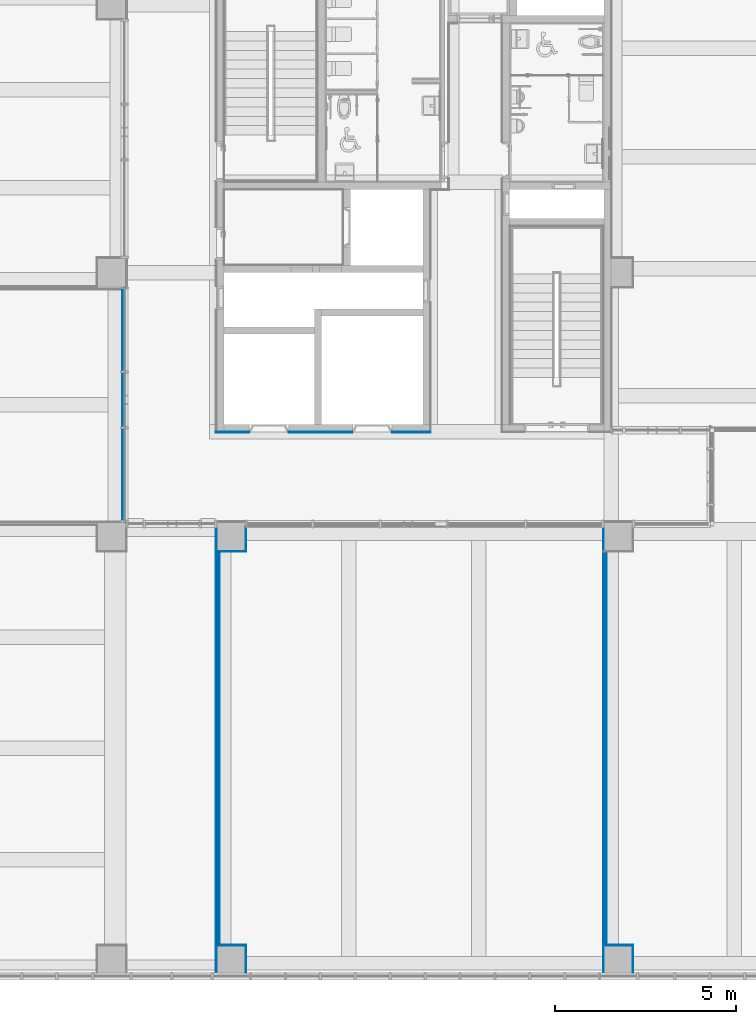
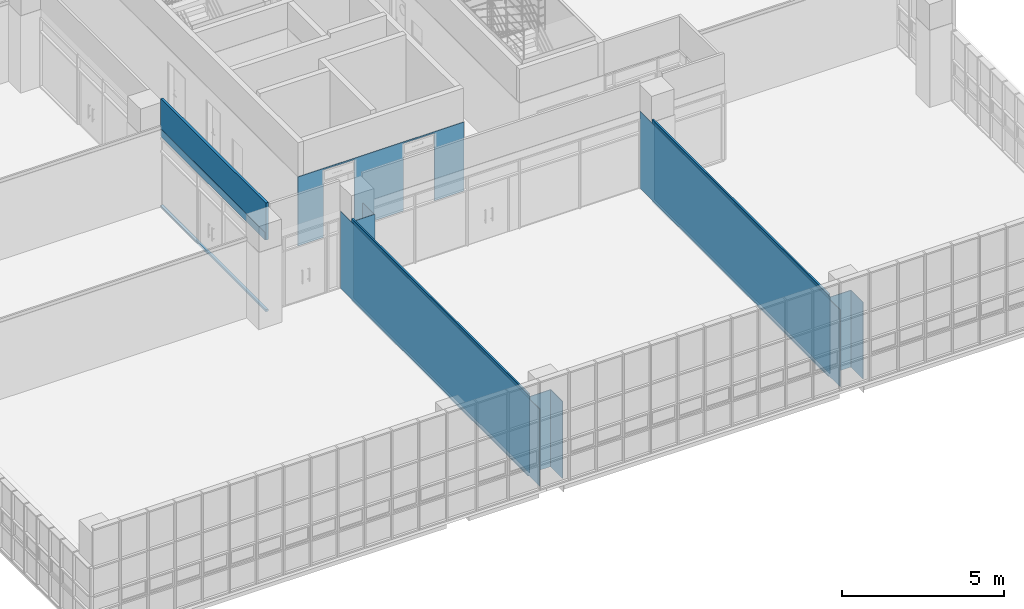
# One storey, part 45 of 76: 15 walls, 8 openings.
"""IFC2X3 building model written with IfcOpenShell, lengths in millimetres."""

from ifc_helpers import new_model, entity, si_unit, converted_unit, derived_unit, direction, frame, frame_2d, origin, place, context, subcontext, project, spatial, rectangle, extrude, material, layer, layer_set, layer_usage, type_object, element, save


model = new_model("IFC2X3")

# Units and contexts
model_context = context("Model", 3, precision=0.01, world=origin(), true_north=direction((6.123031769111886e-17, 1.0)))
body_context = subcontext(model_context, "Body", "Model", "MODEL_VIEW")
ifc_project = project(units=[si_unit("LENGTHUNIT", "METRE", prefix="MILLI"), si_unit("AREAUNIT", "SQUARE_METRE"), si_unit("VOLUMEUNIT", "CUBIC_METRE"), converted_unit("PLANEANGLEUNIT", "DEGREE", entity("IfcRatioMeasure", 0.017453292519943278), si_unit("PLANEANGLEUNIT", "RADIAN"), dimensions=[0, 0, 0, 0, 0, 0, 0]), si_unit("MASSUNIT", "GRAM", prefix="KILO"), derived_unit("MASSDENSITYUNIT", [(si_unit("MASSUNIT", "GRAM", prefix="KILO"), 1), (si_unit("LENGTHUNIT", "METRE"), -3)]), derived_unit("MOMENTOFINERTIAUNIT", [(si_unit("LENGTHUNIT", "METRE"), 4)]), si_unit("TIMEUNIT", "SECOND"), si_unit("FREQUENCYUNIT", "HERTZ"), si_unit("THERMODYNAMICTEMPERATUREUNIT", "DEGREE_CELSIUS"), derived_unit("THERMALTRANSMITTANCEUNIT", [(si_unit("MASSUNIT", "GRAM", prefix="KILO"), 1), (si_unit("THERMODYNAMICTEMPERATUREUNIT", "KELVIN"), -1), (si_unit("TIMEUNIT", "SECOND"), -3)]), derived_unit("VOLUMETRICFLOWRATEUNIT", [(si_unit("LENGTHUNIT", "METRE"), 3), (si_unit("TIMEUNIT", "SECOND"), -1)]), derived_unit("MASSFLOWRATEUNIT", [(si_unit("MASSUNIT", "GRAM", prefix="KILO"), 1), (si_unit("TIMEUNIT", "SECOND"), -1)]), derived_unit("ROTATIONALFREQUENCYUNIT", [(si_unit("TIMEUNIT", "SECOND"), -1)]), si_unit("ELECTRICCURRENTUNIT", "AMPERE"), si_unit("ELECTRICVOLTAGEUNIT", "VOLT"), si_unit("POWERUNIT", "WATT"), si_unit("FORCEUNIT", "NEWTON", prefix="KILO"), si_unit("ILLUMINANCEUNIT", "LUX"), si_unit("LUMINOUSFLUXUNIT", "LUMEN"), si_unit("LUMINOUSINTENSITYUNIT", "CANDELA"), derived_unit("USERDEFINED", [(si_unit("MASSUNIT", "GRAM", prefix="KILO"), -1), (si_unit("LENGTHUNIT", "METRE"), -2), (si_unit("TIMEUNIT", "SECOND"), 3), (si_unit("LUMINOUSFLUXUNIT", "LUMEN"), 1)]), derived_unit("SOUNDPOWERUNIT", [(si_unit("MASSUNIT", "GRAM", prefix="KILO"), 1), (si_unit("LENGTHUNIT", "METRE"), 2), (si_unit("TIMEUNIT", "SECOND"), -3)]), derived_unit("SOUNDPRESSUREUNIT", [(si_unit("MASSUNIT", "GRAM", prefix="KILO"), 1), (si_unit("LENGTHUNIT", "METRE"), -1), (si_unit("TIMEUNIT", "SECOND"), -2)]), derived_unit("LINEARVELOCITYUNIT", [(si_unit("LENGTHUNIT", "METRE"), 1), (si_unit("TIMEUNIT", "SECOND"), -1)]), si_unit("PRESSUREUNIT", "PASCAL"), derived_unit("USERDEFINED", [(si_unit("LENGTHUNIT", "METRE"), -2), (si_unit("MASSUNIT", "GRAM", prefix="KILO"), 1), (si_unit("TIMEUNIT", "SECOND"), -2)]), derived_unit("LINEARFORCEUNIT", [(si_unit("MASSUNIT", "GRAM", prefix="KILO"), 1), (si_unit("LENGTHUNIT", "METRE"), 1), (si_unit("TIMEUNIT", "SECOND"), -2), (si_unit("LENGTHUNIT", "METRE"), -1)]), derived_unit("PLANARFORCEUNIT", [(si_unit("MASSUNIT", "GRAM", prefix="KILO"), 1), (si_unit("LENGTHUNIT", "METRE"), 1), (si_unit("TIMEUNIT", "SECOND"), -2), (si_unit("LENGTHUNIT", "METRE"), -2)])], contexts=[model_context])

# Site, building, storey
site_placement = place(None, frame((-14167.972527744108, -657.2125860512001, 0.0)))
site = spatial("IfcSite", under=ifc_project, at=site_placement, Name="Default", CompositionType="ELEMENT")
building_placement = place(site_placement, origin())
building = spatial("IfcBuilding", under=site, at=building_placement, Name="Sample Building", CompositionType="ELEMENT")
storey_placement = place(building_placement, frame((0.0, 0.0, 9300.0)))
storey = spatial("IfcBuildingStorey", under=building, at=storey_placement, Name="지상 3층", CompositionType="ELEMENT", Elevation=9300.000000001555)

# Walls
ifc_material_1 = material(Name="KBIMS-DRY WALL")
ifc_layer_1 = layer(ifc_material_1, 12.5)
ifc_material_2 = material(Name="KBIMS-경량철골벽틀")
ifc_layer_2 = layer(ifc_material_2, 50.0)
ifc_layer_set_1 = layer_set([ifc_layer_1, ifc_layer_2], Name="기본 벽:WA731-DRY WALL(C50, GS12.5mm) (1겹한면, GW50mm) 62.5mm")
ifc_layer_usage_1 = layer_usage(ifc_layer_set_1, "AXIS2", "NEGATIVE", 31.250000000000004)
wall_type_1 = type_object("IfcWallType", Name="기본 벽:WA731-DRY WALL(C50, GS12.5mm) (1겹한면, GW50mm) 62.5mm", PredefinedType="STANDARD", material=ifc_layer_set_1)
wall_1_placement = place(storey_placement, frame((30099.205114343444, 12257.212307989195, -2.2989269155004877e-09), z_axis=(0.0, 0.0, 1.0), x_axis=(0.0, -1.0, 0.0)))
element("IfcWallStandardCase", 1, at=wall_1_placement, inside=storey, type_object=wall_type_1, material=ifc_layer_usage_1, Name="기본 벽:WA731-DRY WALL(C50, GS12.5mm) (1겹한면, GW50mm) 62.5mm", ObjectType="기본 벽:WA731-DRY WALL(C50, GS12.5mm) (1겹한면, GW50mm) 62.5mm", context=body_context, shape_type="SweptSolid", body=[
    extrude(rectangle(XDim=10900.000421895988, YDim=62.499999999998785, at=frame_2d((5450.000210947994, 3.0233593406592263e-12), x_axis=(-1.0, 0.0))), origin(), (0.0, 0.0, 1.0), 3100.000000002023),
])
ifc_layer_usage_2 = layer_usage(ifc_layer_set_1, "AXIS2", "NEGATIVE", 31.250000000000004)
wall_2_placement = place(storey_placement, frame((40799.20514177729, 12239.21230798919, -2.2989269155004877e-09), z_axis=(0.0, 0.0, 1.0), x_axis=(0.0, -1.0, 0.0)))
element("IfcWallStandardCase", 2, at=wall_2_placement, inside=storey, type_object=wall_type_1, material=ifc_layer_usage_2, Name="기본 벽:WA731-DRY WALL(C50, GS12.5mm) (1겹한면, GW50mm) 62.5mm", ObjectType="기본 벽:WA731-DRY WALL(C50, GS12.5mm) (1겹한면, GW50mm) 62.5mm", context=body_context, shape_type="SweptSolid", body=[
    extrude(rectangle(XDim=10882.000421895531, YDim=62.50000000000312, at=frame_2d((5441.0002109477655, -4.9187320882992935e-12), x_axis=(-1.0, 0.0))), origin(), (0.0, 0.0, 1.0), 3100.000000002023),
])

# Wall, openings
ifc_material_3 = material(Name="KBIMS-시멘트 벽돌")
ifc_layer_3 = layer(ifc_material_3, 90.0)
ifc_layer_set_2 = layer_set([ifc_layer_3], Name="기본 벽:WA211-시멘트벽돌(일반) 벽 (0.5B) 90mm")
ifc_layer_usage_3 = layer_usage(ifc_layer_set_2, "AXIS2", "NEGATIVE", 45.0)
wall_type_2 = type_object("IfcWallType", Name="기본 벽:WA211-시멘트벽돌(일반) 벽 (0.5B) 90mm", PredefinedType="STANDARD", material=ifc_layer_set_2)
wall_3_placement = place(storey_placement, frame((27522.955105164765, 19557.212617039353, -2.297844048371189e-09), z_axis=(0.0, 0.0, 1.0), x_axis=(0.0, -1.0, 0.0)))
wall_3 = element("IfcWallStandardCase", 3, at=wall_3_placement, inside=storey, type_object=wall_type_2, material=ifc_layer_usage_3, Name="기본 벽:WA211-시멘트벽돌(일반) 벽 (0.5B) 90mm", ObjectType="기본 벽:WA211-시멘트벽돌(일반) 벽 (0.5B) 90mm", context=body_context, shape_type="SweptSolid", body=[
    extrude(rectangle(XDim=6499.999999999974, YDim=90.0000000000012, at=frame_2d((3249.999999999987, -2.1671553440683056e-12), x_axis=(-1.0, 0.0))), origin(), (0.0, 0.0, 1.0), 4100.0000000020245),
])
opening_1_placement = place(wall_3_placement, origin())
element("IfcOpeningElement", 4, at=opening_1_placement, cuts=wall_3, Name="기본 벽:WA211-시멘트벽돌(일반) 벽 (0.5B) 90mm", ObjectType="Opening", context=body_context, shape_type="SweptSolid", body=[
    extrude(rectangle(XDim=2620.0000000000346, YDim=6500.034992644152, at=frame_2d((1.1368683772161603e-12, 0.0), x_axis=(1.0, 0.0))), frame((3250.017496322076, -197.40000000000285, 1390.0), z_axis=(0.0, 1.0, 0.0), x_axis=(0.0, 0.0, 1.0)), (0.0, 0.0, 1.0), 394.8000000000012),
])
opening_2_placement = place(wall_3_placement, origin())
element("IfcOpeningElement", 5, at=opening_2_placement, cuts=wall_3, Name="기본 벽:WA211-시멘트벽돌(일반) 벽 (0.5B) 90mm", ObjectType="Opening", context=body_context, shape_type="SweptSolid", body=[
    extrude(rectangle(XDim=2620.0000000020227, YDim=2749.9999672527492, at=frame_2d((-1.1368683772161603e-12, -2.1600499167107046e-12), x_axis=(1.0, 0.0))), frame((-9574.99967458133, -197.4000000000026, 1390.0), z_axis=(0.0, 1.0, 0.0), x_axis=(0.0, 0.0, 1.0)), (0.0, 0.0, 1.0), 394.8000000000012),
])
opening_3_placement = place(wall_3_placement, origin())
element("IfcOpeningElement", 6, at=opening_3_placement, cuts=wall_3, Name="기본 벽:WA211-시멘트벽돌(일반) 벽 (0.5B) 90mm", ObjectType="Opening", context=body_context, shape_type="SweptSolid", body=[
    extrude(rectangle(XDim=2620.000000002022, YDim=6599.999999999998, at=frame_2d((-5.684341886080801e-13, 0.0), x_axis=(1.0, 0.0))), frame((-4099.999690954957, -197.40000000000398, 1390.0), z_axis=(0.0, 1.0, 0.0), x_axis=(0.0, 0.0, 1.0)), (0.0, 0.0, 1.0), 394.8000000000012),
])

ifc_material_4 = material(Name="WA611-수성페인트 (내부) 벽 (3회)")
ifc_layer_4 = layer(ifc_material_4, 1.0)
ifc_material_5 = material(Name="WA551-시멘트모르타르 (내부) 벽 18mm")
ifc_layer_5 = layer(ifc_material_5, 16.0)
ifc_material_6 = material(Name="WA555-콘크리트면정리 벽 (내부)")
ifc_layer_6 = layer(ifc_material_6, 1.0)
ifc_layer_set_3 = layer_set([ifc_layer_4, ifc_layer_5, ifc_layer_6], Name="기본 벽:A1-32-06A-콘크리트면정리, 시멘트모르타르(미장용), 수성페인트(내부) (18mm)")
ifc_layer_usage_4 = layer_usage(ifc_layer_set_3, "AXIS2", "POSITIVE", -9.000000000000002)
wall_type_3 = type_object("IfcWallType", Name="기본 벽:A1-32-06A-콘크리트면정리, 시멘트모르타르(미장용), 수성페인트(내부) (18mm)", PredefinedType="STANDARD", material=ifc_layer_set_3)
wall_4_placement = place(storey_placement, frame((27468.955105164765, 19494.712617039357, 2700.0), z_axis=(0.0, 0.0, 1.0), x_axis=(0.0, -1.0, 0.0)))
wall_4 = element("IfcWallStandardCase", 7, at=wall_4_placement, inside=storey, type_object=wall_type_3, material=ifc_layer_usage_4, Name="기본 벽:A1-32-06A-콘크리트면정리, 시멘트모르타르(미장용), 수성페인트(내부) (18mm)", ObjectType="기본 벽:A1-32-06A-콘크리트면정리, 시멘트모르타르(미장용), 수성페인트(내부) (18mm)", context=body_context, shape_type="SweptSolid", body=[
    extrude(rectangle(XDim=6419.500309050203, YDim=18.00000000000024, at=frame_2d((3209.7501545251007, -1.616484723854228e-12), x_axis=(1.0, 0.0))), origin(), (0.0, 0.0, 1.0), 280.0000000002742),
])
opening_4_placement = place(wall_4_placement, origin())
element("IfcOpeningElement", 8, at=opening_4_placement, cuts=wall_4, Name="기본 벽:A1-32-06A-콘크리트면정리, 시멘트모르타르(미장용), 수성페인트(내부) (18mm)", ObjectType="Opening", context=body_context, shape_type="SweptSolid", body=[
    extrude(rectangle(XDim=2620.0000000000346, YDim=6500.034992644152, at=frame_2d((1.1368683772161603e-12, 0.0), x_axis=(1.0, 0.0))), frame((3187.517496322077, -161.4000000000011, -1310.0), z_axis=(0.0, 1.0, 0.0), x_axis=(0.0, 0.0, 1.0)), (0.0, 0.0, 1.0), 322.80000000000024),
])
opening_5_placement = place(wall_4_placement, origin())
element("IfcOpeningElement", 9, at=opening_5_placement, cuts=wall_4, Name="기본 벽:A1-32-06A-콘크리트면정리, 시멘트모르타르(미장용), 수성페인트(내부) (18mm)", ObjectType="Opening", context=body_context, shape_type="SweptSolid", body=[
    extrude(rectangle(XDim=2620.0000000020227, YDim=2749.9999672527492, at=frame_2d((-1.1368683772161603e-12, -2.1600499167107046e-12), x_axis=(1.0, 0.0))), frame((-9637.499674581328, -161.40000000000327, -1310.0), z_axis=(0.0, 1.0, 0.0), x_axis=(0.0, 0.0, 1.0)), (0.0, 0.0, 1.0), 322.80000000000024),
])
opening_6_placement = place(wall_4_placement, origin())
element("IfcOpeningElement", 10, at=opening_6_placement, cuts=wall_4, Name="기본 벽:A1-32-06A-콘크리트면정리, 시멘트모르타르(미장용), 수성페인트(내부) (18mm)", ObjectType="Opening", context=body_context, shape_type="SweptSolid", body=[
    extrude(rectangle(XDim=2620.000000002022, YDim=6599.999999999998, at=frame_2d((-5.684341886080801e-13, 0.0), x_axis=(1.0, 0.0))), frame((-4162.499690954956, -161.39999999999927, -1310.0), z_axis=(0.0, 1.0, 0.0), x_axis=(0.0, 0.0, 1.0)), (0.0, 0.0, 1.0), 322.80000000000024),
])

# Walls
ifc_layer_usage_5 = layer_usage(ifc_layer_set_3, "AXIS2", "POSITIVE", -9.000000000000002)
wall_5_placement = place(storey_placement, frame((30058.955114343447, 12912.212307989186, 80.0), z_axis=(0.0, 0.0, 1.0), x_axis=(0.0, -1.0, 0.0)))
element("IfcWallStandardCase", 11, at=wall_5_placement, inside=storey, type_object=wall_type_3, material=ifc_layer_usage_5, Name="기본 벽:A1-32-06A-콘크리트면정리, 시멘트모르타르(미장용), 수성페인트(내부) (18mm)", ObjectType="기본 벽:A1-32-06A-콘크리트면정리, 시멘트모르타르(미장용), 수성페인트(내부) (18mm)", context=body_context, shape_type="SweptSolid", body=[
    extrude(rectangle(XDim=12305.000012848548, YDim=18.00000000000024, at=frame_2d((6152.500006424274, -2.2355450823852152e-12), x_axis=(-1.0, 0.0))), origin(), (0.0, 0.0, 1.0), 2899.999999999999),
])
ifc_layer_usage_6 = layer_usage(ifc_layer_set_3, "AXIS2", "POSITIVE", -9.000000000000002)
wall_6_placement = place(storey_placement, frame((30148.455114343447, 12248.21230798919, 80.0)))
element("IfcWallStandardCase", 12, at=wall_6_placement, inside=storey, type_object=wall_type_3, material=ifc_layer_usage_6, Name="기본 벽:A1-32-06A-콘크리트면정리, 시멘트모르타르(미장용), 수성페인트(내부) (18mm)", ObjectType="기본 벽:A1-32-06A-콘크리트면정리, 시멘트모르타르(미장용), 수성페인트(내부) (18mm)", context=body_context, shape_type="SweptSolid", body=[
    extrude(rectangle(XDim=737.499999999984, YDim=18.000000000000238, at=frame_2d((368.749999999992, 0.0), x_axis=(-1.0, 0.0))), origin(), (0.0, 0.0, 1.0), 2899.999999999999),
])
ifc_layer_usage_7 = layer_usage(ifc_layer_set_3, "AXIS2", "POSITIVE", -9.000000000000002)
wall_7_placement = place(storey_placement, frame((30876.95511434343, 12257.21230798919, 80.0), z_axis=(0.0, 0.0, 1.0), x_axis=(0.0, 1.0, 0.0)))
element("IfcWallStandardCase", 13, at=wall_7_placement, inside=storey, type_object=wall_type_3, material=ifc_layer_usage_7, Name="기본 벽:A1-32-06A-콘크리트면정리, 시멘트모르타르(미장용), 수성페인트(내부) (18mm)", ObjectType="기본 벽:A1-32-06A-콘크리트면정리, 시멘트모르타르(미장용), 수성페인트(내부) (18mm)", context=body_context, shape_type="SweptSolid", body=[
    extrude(rectangle(XDim=691.9825704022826, YDim=18.00000000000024, at=frame_2d((345.9912852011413, -2.1662671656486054e-12), x_axis=(-1.0, 0.0))), origin(), (0.0, 0.0, 1.0), 2899.999999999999),
])
ifc_layer_usage_8 = layer_usage(ifc_layer_set_3, "AXIS2", "POSITIVE", -9.000000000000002)
wall_8_placement = place(storey_placement, frame((40758.97249113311, 12949.194878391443, 80.0), z_axis=(0.0, 0.0, 1.0), x_axis=(0.0, -1.0, 0.0)))
element("IfcWallStandardCase", 14, at=wall_8_placement, inside=storey, type_object=wall_type_3, material=ifc_layer_usage_8, Name="기본 벽:A1-32-06A-콘크리트면정리, 시멘트모르타르(미장용), 수성페인트(내부) (18mm)", ObjectType="기본 벽:A1-32-06A-콘크리트면정리, 시멘트모르타르(미장용), 수성페인트(내부) (18mm)", context=body_context, shape_type="SweptSolid", body=[
    extrude(rectangle(XDim=12341.982583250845, YDim=17.999999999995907, at=frame_2d((6170.9912916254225, 1.0835776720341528e-12), x_axis=(-1.0, 0.0))), origin(), (0.0, 0.0, 1.0), 2899.999999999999),
])
ifc_layer_usage_9 = layer_usage(ifc_layer_set_3, "AXIS2", "NEGATIVE", 9.000000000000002)
wall_9_placement = place(storey_placement, frame((30139.455114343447, 12257.21230798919, 80.0), z_axis=(0.0, 0.0, 1.0), x_axis=(0.0, -1.0, 0.0)))
element("IfcWallStandardCase", 15, at=wall_9_placement, inside=storey, type_object=wall_type_3, material=ifc_layer_usage_9, Name="기본 벽:A1-32-06A-콘크리트면정리, 시멘트모르타르(미장용), 수성페인트(내부) (18mm)", ObjectType="기본 벽:A1-32-06A-콘크리트면정리, 시멘트모르타르(미장용), 수성페인트(내부) (18mm)", context=body_context, shape_type="SweptSolid", body=[
    extrude(rectangle(XDim=10882.000112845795, YDim=18.00000000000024, at=frame_2d((5441.000056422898, -2.1520563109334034e-12), x_axis=(-1.0, 0.0))), origin(), (0.0, 0.0, 1.0), 2899.999999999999),
])
ifc_layer_usage_10 = layer_usage(ifc_layer_set_3, "AXIS2", "NEGATIVE", 9.000000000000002)
wall_10_placement = place(storey_placement, frame((40839.45514177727, 12239.21230798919, 80.0), z_axis=(0.0, 0.0, 1.0), x_axis=(0.0, -1.0, 0.0)))
element("IfcWallStandardCase", 16, at=wall_10_placement, inside=storey, type_object=wall_type_3, material=ifc_layer_usage_10, Name="기본 벽:A1-32-06A-콘크리트면정리, 시멘트모르타르(미장용), 수성페인트(내부) (18mm)", ObjectType="기본 벽:A1-32-06A-콘크리트면정리, 시멘트모르타르(미장용), 수성페인트(내부) (18mm)", context=body_context, shape_type="SweptSolid", body=[
    extrude(rectangle(XDim=10864.000421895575, YDim=17.999999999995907, at=frame_2d((5432.000210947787, 0.0), x_axis=(-1.0, 0.0))), origin(), (0.0, 0.0, 1.0), 2899.999999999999),
])
ifc_layer_usage_11 = layer_usage(ifc_layer_set_3, "AXIS2", "POSITIVE", -9.000000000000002)
wall_11_placement = place(storey_placement, frame((30876.95511434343, 607.2132517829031, 80.0), z_axis=(0.0, 0.0, 1.0), x_axis=(0.0, 1.0, 0.0)))
element("IfcWallStandardCase", 17, at=wall_11_placement, inside=storey, type_object=wall_type_3, material=ifc_layer_usage_11, Name="기본 벽:A1-32-06A-콘크리트면정리, 시멘트모르타르(미장용), 수성페인트(내부) (18mm)", ObjectType="기본 벽:A1-32-06A-콘크리트면정리, 시멘트모르타르(미장용), 수성페인트(내부) (18mm)", context=body_context, shape_type="SweptSolid", body=[
    extrude(rectangle(XDim=767.9995909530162, YDim=18.00000000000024, at=frame_2d((383.9997954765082, -2.1662671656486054e-12), x_axis=(-1.0, 0.0))), origin(), (0.0, 0.0, 1.0), 2899.999999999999),
])
ifc_layer_usage_12 = layer_usage(ifc_layer_set_3, "AXIS2", "NEGATIVE", 9.000000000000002)
wall_12_placement = place(storey_placement, frame((30130.45511434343, 1366.2121951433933, 80.0)))
element("IfcWallStandardCase", 18, at=wall_12_placement, inside=storey, type_object=wall_type_3, material=ifc_layer_usage_12, Name="기본 벽:A1-32-06A-콘크리트면정리, 시멘트모르타르(미장용), 수성페인트(내부) (18mm)", ObjectType="기본 벽:A1-32-06A-콘크리트면정리, 시멘트모르타르(미장용), 수성페인트(내부) (18mm)", context=body_context, shape_type="SweptSolid", body=[
    extrude(rectangle(XDim=737.5000000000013, YDim=17.999999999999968, at=frame_2d((368.7500000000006, 1.3500311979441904e-13), x_axis=(-1.0, 0.0))), origin(), (0.0, 0.0, 1.0), 2899.999999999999),
])
ifc_layer_usage_13 = layer_usage(ifc_layer_set_3, "AXIS2", "POSITIVE", -9.000000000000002)
wall_13_placement = place(storey_placement, frame((41576.95514177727, 607.2122951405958, 80.0), z_axis=(0.0, 0.0, 1.0), x_axis=(0.0, 1.0, 0.0)))
element("IfcWallStandardCase", 19, at=wall_13_placement, inside=storey, type_object=wall_type_3, material=ifc_layer_usage_13, Name="기본 벽:A1-32-06A-콘크리트면정리, 시멘트모르타르(미장용), 수성페인트(내부) (18mm)", ObjectType="기본 벽:A1-32-06A-콘크리트면정리, 시멘트모르타르(미장용), 수성페인트(내부) (18mm)", context=body_context, shape_type="SweptSolid", body=[
    extrude(rectangle(XDim=767.9995909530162, YDim=17.999999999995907, at=frame_2d((383.9997954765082, 0.0), x_axis=(-1.0, 0.0))), origin(), (0.0, 0.0, 1.0), 2899.999999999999),
])
ifc_layer_usage_14 = layer_usage(ifc_layer_set_3, "AXIS2", "NEGATIVE", 9.000000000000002)
wall_14_placement = place(storey_placement, frame((40830.45514177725, 1366.2118860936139, 80.0)))
element("IfcWallStandardCase", 20, at=wall_14_placement, inside=storey, type_object=wall_type_3, material=ifc_layer_usage_14, Name="기본 벽:A1-32-06A-콘크리트면정리, 시멘트모르타르(미장용), 수성페인트(내부) (18mm)", ObjectType="기본 벽:A1-32-06A-콘크리트면정리, 시멘트모르타르(미장용), 수성페인트(내부) (18mm)", context=body_context, shape_type="SweptSolid", body=[
    extrude(rectangle(XDim=737.5000000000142, YDim=17.999999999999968, at=frame_2d((368.7500000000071, 1.3500311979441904e-13), x_axis=(-1.0, 0.0))), origin(), (0.0, 0.0, 1.0), 2899.999999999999),
])

# Wall, openings
ifc_layer_7 = layer(ifc_material_4, 1.0)
ifc_material_7 = material(Name="WA551-시멘트모르타르 (내부) 벽 24mm")
ifc_layer_8 = layer(ifc_material_7, 21.0)
ifc_material_8 = material(Name="WA961-바닥방수 연장")
ifc_layer_9 = layer(ifc_material_8, 1.0)
ifc_layer_10 = layer(ifc_material_6, 1.0)
ifc_layer_set_4 = layer_set([ifc_layer_7, ifc_layer_8, ifc_layer_9, ifc_layer_10], Name="기본 벽:A1-32-07A-콘크리트면정리, 바닥방수연장, 시멘트모르타르(미장용), 수성페인트(내부) (24mm)")
ifc_layer_usage_15 = layer_usage(ifc_layer_set_4, "AXIS2", "NEGATIVE", 12.000000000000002)
wall_type_4 = type_object("IfcWallType", Name="기본 벽:A1-32-07A-콘크리트면정리, 바닥방수연장, 시멘트모르타르(미장용), 수성페인트(내부) (24mm)", PredefinedType="STANDARD", material=ifc_layer_set_4)
wall_15_placement = place(storey_placement, frame((35967.71147767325, 15545.302947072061, 80.0), z_axis=(0.0, 0.0, 1.0), x_axis=(-1.0, 0.0, 0.0)))
wall_15 = element("IfcWallStandardCase", 21, at=wall_15_placement, inside=storey, type_object=wall_type_4, material=ifc_layer_usage_15, Name="기본 벽:A1-32-07A-콘크리트면정리, 바닥방수연장, 시멘트모르타르(미장용), 수성페인트(내부) (24mm)", ObjectType="기본 벽:A1-32-07A-콘크리트면정리, 바닥방수연장, 시멘트모르타르(미장용), 수성페인트(내부) (24mm)", context=body_context, shape_type="SweptSolid", body=[
    extrude(rectangle(XDim=5923.747716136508, YDim=24.00000000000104, at=frame_2d((2961.873858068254, -1.0436096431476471e-12), x_axis=(1.0, 0.0))), origin(), (0.0, 0.0, 1.0), 2600.0000000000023),
])
opening_7_placement = place(wall_15_placement, origin())
element("IfcOpeningElement", 22, at=opening_7_placement, cuts=wall_15, Name="기본 벽:A1-32-07A-콘크리트면정리, 바닥방수연장, 시멘트모르타르(미장용), 수성페인트(내부) (24mm)", ObjectType="Opening", context=body_context, shape_type="SweptSolid", body=[
    extrude(rectangle(XDim=2549.9999999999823, YDim=1100.0000000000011, at=frame_2d((4.320099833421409e-12, 4.547473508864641e-13), x_axis=(0.0, 1.0))), frame((4449.7389865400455, -1736.0, 1275.0), z_axis=(0.0, 1.0, 0.0), x_axis=(-1.0, 0.0, 0.0)), (0.0, 0.0, 1.0), 3048.0),
])
opening_8_placement = place(wall_15_placement, origin())
element("IfcOpeningElement", 23, at=opening_8_placement, cuts=wall_15, Name="기본 벽:A1-32-07A-콘크리트면정리, 바닥방수연장, 시멘트모르타르(미장용), 수성페인트(내부) (24mm)", ObjectType="Opening", context=body_context, shape_type="SweptSolid", body=[
    extrude(rectangle(XDim=2549.9999999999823, YDim=1100.0000000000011, at=frame_2d((0.0, 4.547473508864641e-13), x_axis=(0.0, 1.0))), frame((1599.738760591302, -1736.0, 1275.0), z_axis=(0.0, 1.0, 0.0), x_axis=(-1.0, 0.0, 0.0)), (0.0, 0.0, 1.0), 3048.0),
])

save(model, "model.ifc")
